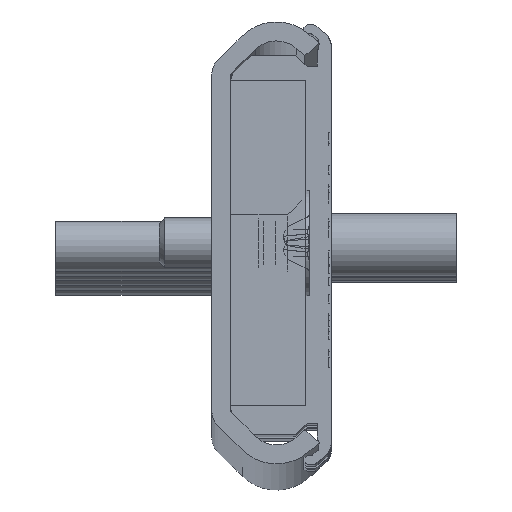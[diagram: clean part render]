
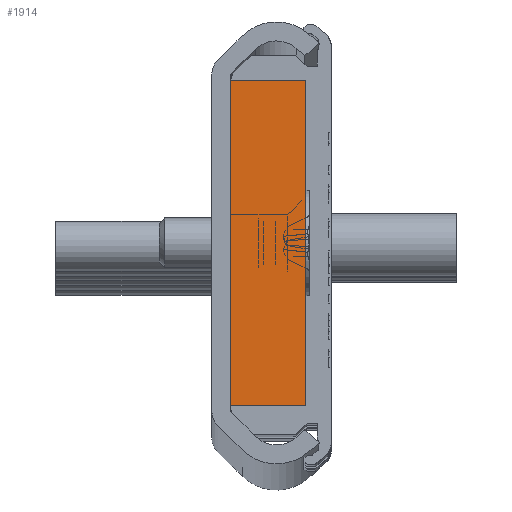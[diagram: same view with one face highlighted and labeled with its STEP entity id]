
A CAD part, top view. The second image highlights one B-rep face of the part: STEP entity #1914.
In plain terms, the highlighted planar face has unit normal (0, 0, 1) as drawn and (-1, 0, 0) by its records, which use the part's own axes.
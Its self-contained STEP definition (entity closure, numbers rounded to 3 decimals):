
#1798=CARTESIAN_POINT('',(-5.0,13.0,-3.0));
#1799=VERTEX_POINT('',#1798);
#1800=CARTESIAN_POINT('',(-5.0,-13.0,-3.0));
#1801=VERTEX_POINT('',#1800);
#1802=CARTESIAN_POINT('',(-5.0,13.0,-3.0));
#1803=DIRECTION('',(0.0,-1.0,0.0));
#1804=VECTOR('',#1803,26.0);
#1805=LINE('',#1802,#1804);
#1806=EDGE_CURVE('',#1799,#1801,#1805,.T.);
#1872=CARTESIAN_POINT('',(-5.0,-13.0,3.0));
#1873=VERTEX_POINT('',#1872);
#1880=CARTESIAN_POINT('',(-5.0,-13.0,3.0));
#1881=DIRECTION('',(0.0,0.0,-1.0));
#1882=VECTOR('',#1881,6.);
#1883=LINE('',#1880,#1882);
#1884=EDGE_CURVE('',#1873,#1801,#1883,.T.);
#1891=CARTESIAN_POINT('',(-5.0,-13.0,0.0));
#1892=DIRECTION('',(-1.0,0.0,0.0));
#1893=DIRECTION('',(0.0,0.0,1.0));
#1894=AXIS2_PLACEMENT_3D('',#1891,#1892,#1893);
#1895=PLANE('',#1894);
#1896=CARTESIAN_POINT('',(-5.0,13.0,3.0));
#1897=VERTEX_POINT('',#1896);
#1898=CARTESIAN_POINT('',(-5.0,-13.0,3.0));
#1899=DIRECTION('',(0.0,1.0,0.0));
#1900=VECTOR('',#1899,26.0);
#1901=LINE('',#1898,#1900);
#1902=EDGE_CURVE('',#1873,#1897,#1901,.T.);
#1903=ORIENTED_EDGE('',*,*,#1902,.T.);
#1904=CARTESIAN_POINT('',(-5.0,13.0,-3.0));
#1905=DIRECTION('',(0.0,0.0,1.0));
#1906=VECTOR('',#1905,6.);
#1907=LINE('',#1904,#1906);
#1908=EDGE_CURVE('',#1799,#1897,#1907,.T.);
#1909=ORIENTED_EDGE('',*,*,#1908,.F.);
#1910=ORIENTED_EDGE('',*,*,#1806,.T.);
#1911=ORIENTED_EDGE('',*,*,#1884,.F.);
#1912=EDGE_LOOP('',(#1903,#1909,#1910,#1911));
#1913=FACE_OUTER_BOUND('',#1912,.T.);
#1914=ADVANCED_FACE('',(#1913),#1895,.T.);
